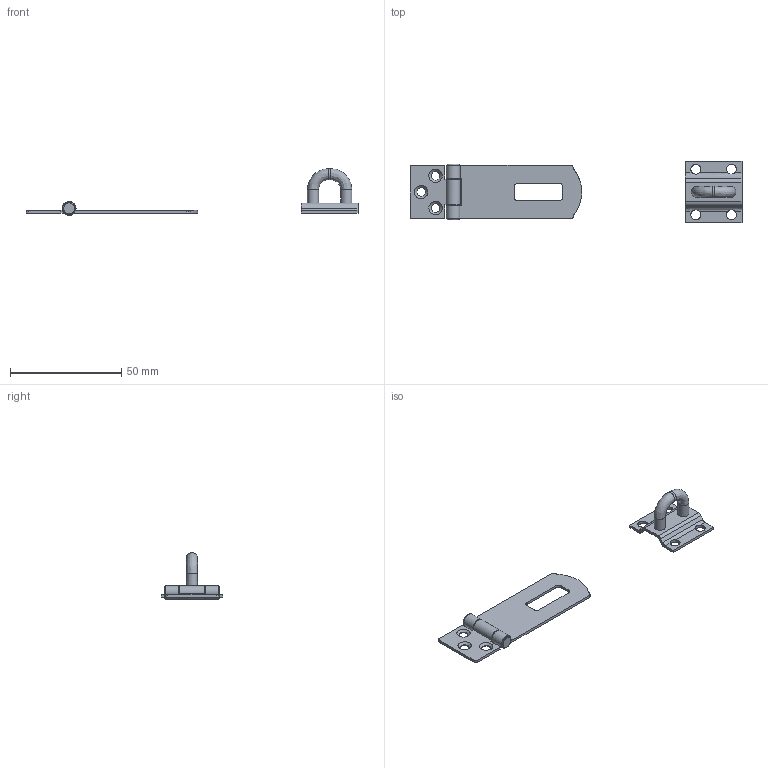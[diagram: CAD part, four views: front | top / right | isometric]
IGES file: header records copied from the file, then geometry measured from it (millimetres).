
Global section: file name: DR_GT2-2; native system: Autodesk Inventor 2015; preprocessor: unknown; author: CHANNEL&J; date: 20170831.114249; units: millimetre
Bounding box: 149.38 x 27.5 x 21 mm (x, y, z)
Volume: 4115 mm3; surface area: 6673 mm2
Topology: 4 solids, 4 shells, 96 faces, 285 edges, 193 vertices
Faces by surface type: bspline 96
